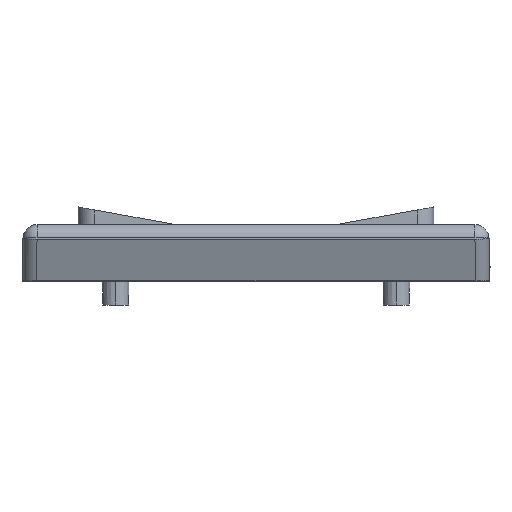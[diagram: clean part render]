
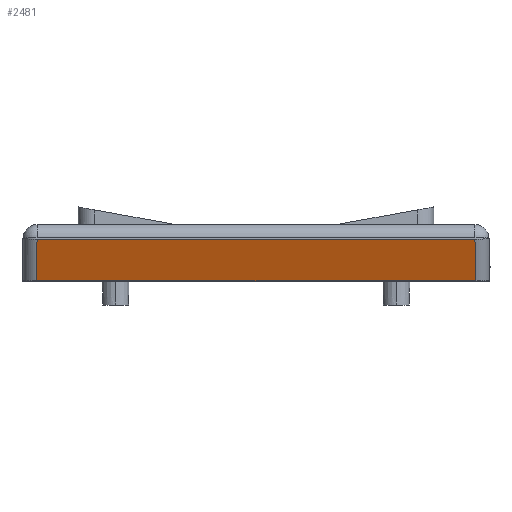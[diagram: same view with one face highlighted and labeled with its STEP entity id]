
A CAD part, top view. The second image highlights one B-rep face of the part: STEP entity #2481.
In plain terms, the highlighted planar face has unit normal (0, -0.342, 0.94).
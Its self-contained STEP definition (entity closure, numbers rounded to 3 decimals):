
#277 = LINE ( 'NONE', #2493, #5169 ) ;
#556 = VECTOR ( 'NONE', #3846, 1000. ) ;
#667 = CARTESIAN_POINT ( 'NONE',  ( 23.396, 2.893, 27.396 ) ) ;
#1595 = LINE ( 'NONE', #3257, #6701 ) ;
#1743 = LINE ( 'NONE', #1808, #2432 ) ;
#1808 = CARTESIAN_POINT ( 'NONE',  ( -35., 2.9, 27.399 ) ) ;
#2027 = PLANE ( 'NONE',  #6822 ) ;
#2134 = DIRECTION ( 'NONE',  ( -0.005, -0.94, -0.342 ) ) ;
#2349 = DIRECTION ( 'NONE',  ( 1., 0., 0. ) ) ;
#2432 = VECTOR ( 'NONE', #2349, 1000. ) ;
#2481 = ADVANCED_FACE ( 'NONE', ( #6529 ), #2027, .F. ) ;
#2493 = CARTESIAN_POINT ( 'NONE',  ( 25., -1.5, 25.797 ) ) ;
#2606 = EDGE_CURVE ( 'NONE', #4912, #6505, #1595, .T. ) ;
#2896 = VERTEX_POINT ( 'NONE', #3572 ) ;
#2920 = LINE ( 'NONE', #667, #556 ) ;
#3154 = DIRECTION ( 'NONE',  ( 0., 0.94, 0.342 ) ) ;
#3257 = CARTESIAN_POINT ( 'NONE',  ( -23.419, -1.507, 25.795 ) ) ;
#3426 = EDGE_CURVE ( 'NONE', #4912, #5763, #1743, .T. ) ;
#3572 = CARTESIAN_POINT ( 'NONE',  ( 23.419, -1.5, 25.797 ) ) ;
#3629 = DIRECTION ( 'NONE',  ( -1., 0., 0. ) ) ;
#3667 = ORIENTED_EDGE ( 'NONE', *, *, #3426, .F. ) ;
#3821 = EDGE_CURVE ( 'NONE', #2896, #5763, #2920, .T. ) ;
#3846 = DIRECTION ( 'NONE',  ( -0.005, 0.94, 0.342 ) ) ;
#4280 = CARTESIAN_POINT ( 'NONE',  ( -35., 2.9, 27.399 ) ) ;
#4377 = ORIENTED_EDGE ( 'NONE', *, *, #2606, .T. ) ;
#4912 = VERTEX_POINT ( 'NONE', #6925 ) ;
#5169 = VECTOR ( 'NONE', #3629, 1000. ) ;
#5288 = DIRECTION ( 'NONE',  ( 0., 0.342, -0.94 ) ) ;
#5305 = EDGE_LOOP ( 'NONE', ( #3667, #4377, #7137, #6085 ) ) ;
#5425 = CARTESIAN_POINT ( 'NONE',  ( 23.396, 2.9, 27.399 ) ) ;
#5721 = CARTESIAN_POINT ( 'NONE',  ( -23.419, -1.5, 25.797 ) ) ;
#5763 = VERTEX_POINT ( 'NONE', #5425 ) ;
#6085 = ORIENTED_EDGE ( 'NONE', *, *, #3821, .T. ) ;
#6505 = VERTEX_POINT ( 'NONE', #5721 ) ;
#6529 = FACE_OUTER_BOUND ( 'NONE', #5305, .T. ) ;
#6534 = EDGE_CURVE ( 'NONE', #2896, #6505, #277, .T. ) ;
#6701 = VECTOR ( 'NONE', #2134, 1000. ) ;
#6822 = AXIS2_PLACEMENT_3D ( 'NONE', #4280, #5288, #3154 ) ;
#6925 = CARTESIAN_POINT ( 'NONE',  ( -23.396, 2.9, 27.399 ) ) ;
#7137 = ORIENTED_EDGE ( 'NONE', *, *, #6534, .F. ) ;
